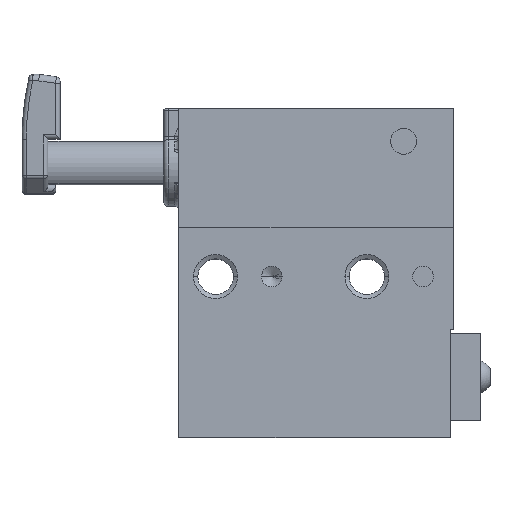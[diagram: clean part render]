
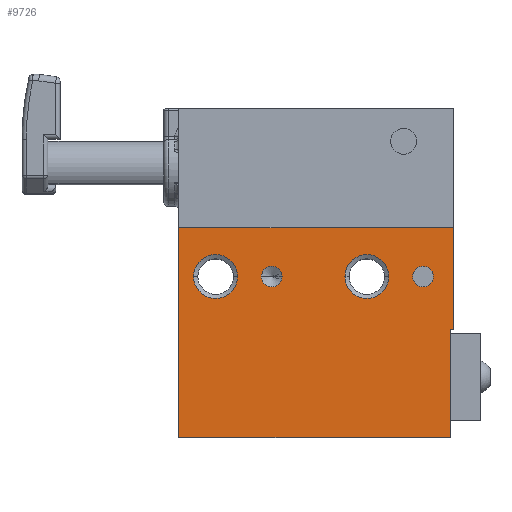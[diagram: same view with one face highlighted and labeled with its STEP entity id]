
A CAD part, top view. The second image highlights one B-rep face of the part: STEP entity #9726.
In plain terms, the highlighted planar face has unit normal (0, 0, 1).
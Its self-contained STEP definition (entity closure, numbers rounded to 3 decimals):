
#44 = ORIENTED_EDGE ( 'NONE', *, *, #11095, .F. ) ;
#253 = CARTESIAN_POINT ( 'NONE',  ( 19.1, 37.2, 20.1 ) ) ;
#331 = CARTESIAN_POINT ( 'NONE',  ( 3.425, 37.2, 20.1 ) ) ;
#344 = VERTEX_POINT ( 'NONE', #3436 ) ;
#1172 = DIRECTION ( 'NONE',  ( -1., 0., 0. ) ) ;
#1233 = VECTOR ( 'NONE', #9196, 1000. ) ;
#1365 = DIRECTION ( 'NONE',  ( 1., 0., 0. ) ) ;
#1384 = DIRECTION ( 'NONE',  ( 1., 0., 0. ) ) ;
#1598 = CARTESIAN_POINT ( 'NONE',  ( 58.9, 37.2, 20.1 ) ) ;
#1733 = CARTESIAN_POINT ( 'NONE',  ( 63.5, 48.5, 20.1 ) ) ;
#1857 = DIRECTION ( 'NONE',  ( 1., 0., 0. ) ) ;
#2010 = ORIENTED_EDGE ( 'NONE', *, *, #5491, .T. ) ;
#2034 = CARTESIAN_POINT ( 'NONE',  ( 0., 76., 20.1 ) ) ;
#2064 = VERTEX_POINT ( 'NONE', #253 ) ;
#2245 = DIRECTION ( 'NONE',  ( 0., 0., 1. ) ) ;
#2256 = EDGE_LOOP ( 'NONE', ( #12601, #13106, #2010, #4952, #5068, #9771 ) ) ;
#2276 = DIRECTION ( 'NONE',  ( 0., 0., 1. ) ) ;
#2401 = AXIS2_PLACEMENT_3D ( 'NONE', #10664, #6316, #1172 ) ;
#2630 = VECTOR ( 'NONE', #4074, 1000. ) ;
#2640 = CIRCLE ( 'NONE', #7350, 5.075 ) ;
#2742 = ORIENTED_EDGE ( 'NONE', *, *, #10946, .T. ) ;
#2843 = DIRECTION ( 'NONE',  ( 0., 0., 1. ) ) ;
#3207 = CARTESIAN_POINT ( 'NONE',  ( 0., 48.5, 20.1 ) ) ;
#3307 = CIRCLE ( 'NONE', #11158, 2.4 ) ;
#3341 = CARTESIAN_POINT ( 'NONE',  ( 0., 0., 20.1 ) ) ;
#3436 = CARTESIAN_POINT ( 'NONE',  ( 23.9, 37.2, 20.1 ) ) ;
#3476 = FACE_BOUND ( 'NONE', #5405, .T. ) ;
#3536 = VECTOR ( 'NONE', #5849, 1000. ) ;
#3658 = EDGE_CURVE ( 'NONE', #13744, #13836, #4587, .T. ) ;
#3830 = EDGE_CURVE ( 'NONE', #11074, #5529, #4134, .T. ) ;
#3936 = VECTOR ( 'NONE', #6741, 1000. ) ;
#4074 = DIRECTION ( 'NONE',  ( 0., -1., 0. ) ) ;
#4134 = CIRCLE ( 'NONE', #4356, 5.075 ) ;
#4155 = ORIENTED_EDGE ( 'NONE', *, *, #3830, .F. ) ;
#4356 = AXIS2_PLACEMENT_3D ( 'NONE', #4864, #10412, #7113 ) ;
#4376 = CARTESIAN_POINT ( 'NONE',  ( 62.8, 25., 20.1 ) ) ;
#4485 = ORIENTED_EDGE ( 'NONE', *, *, #12360, .F. ) ;
#4514 = EDGE_CURVE ( 'NONE', #5529, #11074, #8176, .T. ) ;
#4587 = CIRCLE ( 'NONE', #8615, 2.4 ) ;
#4591 = DIRECTION ( 'NONE',  ( -1., 0., 0. ) ) ;
#4814 = AXIS2_PLACEMENT_3D ( 'NONE', #9969, #2245, #13277 ) ;
#4864 = CARTESIAN_POINT ( 'NONE',  ( 8.5, 37.2, 20.1 ) ) ;
#4952 = ORIENTED_EDGE ( 'NONE', *, *, #11903, .F. ) ;
#4958 = CARTESIAN_POINT ( 'NONE',  ( 43.5, 37.2, 20.1 ) ) ;
#5060 = LINE ( 'NONE', #5913, #3536 ) ;
#5068 = ORIENTED_EDGE ( 'NONE', *, *, #5451, .T. ) ;
#5189 = CARTESIAN_POINT ( 'NONE',  ( 0., 0., 20.1 ) ) ;
#5405 = EDGE_LOOP ( 'NONE', ( #8199, #4485 ) ) ;
#5451 = EDGE_CURVE ( 'NONE', #10212, #6513, #8978, .T. ) ;
#5491 = EDGE_CURVE ( 'NONE', #5991, #6088, #8060, .T. ) ;
#5516 = FACE_OUTER_BOUND ( 'NONE', #2256, .T. ) ;
#5529 = VERTEX_POINT ( 'NONE', #10952 ) ;
#5719 = CARTESIAN_POINT ( 'NONE',  ( 56.5, 37.2, 20.1 ) ) ;
#5797 = VERTEX_POINT ( 'NONE', #7809 ) ;
#5812 = AXIS2_PLACEMENT_3D ( 'NONE', #12746, #12957, #9505 ) ;
#5849 = DIRECTION ( 'NONE',  ( 0., 1., 0. ) ) ;
#5913 = CARTESIAN_POINT ( 'NONE',  ( 63.5, 76., 20.1 ) ) ;
#5956 = EDGE_LOOP ( 'NONE', ( #2742, #12141 ) ) ;
#5991 = VERTEX_POINT ( 'NONE', #5189 ) ;
#6015 = LINE ( 'NONE', #12550, #11844 ) ;
#6088 = VERTEX_POINT ( 'NONE', #10950 ) ;
#6119 = CARTESIAN_POINT ( 'NONE',  ( 63.5, 25., 20.1 ) ) ;
#6288 = DIRECTION ( 'NONE',  ( 0., 0., 1. ) ) ;
#6316 = DIRECTION ( 'NONE',  ( 0., 0., -1. ) ) ;
#6319 = CARTESIAN_POINT ( 'NONE',  ( 62.8, 25., 20.1 ) ) ;
#6513 = VERTEX_POINT ( 'NONE', #6119 ) ;
#6741 = DIRECTION ( 'NONE',  ( 1., 0., 0. ) ) ;
#7086 = VECTOR ( 'NONE', #1384, 1000. ) ;
#7113 = DIRECTION ( 'NONE',  ( 1., 0., 0. ) ) ;
#7235 = LINE ( 'NONE', #2034, #2630 ) ;
#7350 = AXIS2_PLACEMENT_3D ( 'NONE', #4958, #10443, #9314 ) ;
#7502 = EDGE_LOOP ( 'NONE', ( #12687, #4155 ) ) ;
#7558 = FACE_BOUND ( 'NONE', #10167, .T. ) ;
#7809 = CARTESIAN_POINT ( 'NONE',  ( 48.575, 37.2, 20.1 ) ) ;
#7827 = EDGE_CURVE ( 'NONE', #344, #2064, #11980, .T. ) ;
#8052 = CARTESIAN_POINT ( 'NONE',  ( 21.5, 37.2, 20.1 ) ) ;
#8060 = LINE ( 'NONE', #13270, #7086 ) ;
#8176 = CIRCLE ( 'NONE', #4814, 5.075 ) ;
#8199 = ORIENTED_EDGE ( 'NONE', *, *, #13045, .F. ) ;
#8615 = AXIS2_PLACEMENT_3D ( 'NONE', #5719, #10923, #4591 ) ;
#8616 = VERTEX_POINT ( 'NONE', #10869 ) ;
#8685 = CIRCLE ( 'NONE', #2401, 2.4 ) ;
#8978 = LINE ( 'NONE', #13334, #3936 ) ;
#9173 = DIRECTION ( 'NONE',  ( -1., 0., 0. ) ) ;
#9196 = DIRECTION ( 'NONE',  ( 0., -1., 0. ) ) ;
#9314 = DIRECTION ( 'NONE',  ( 1., 0., 0. ) ) ;
#9373 = CARTESIAN_POINT ( 'NONE',  ( 21.5, 37.2, 20.1 ) ) ;
#9505 = DIRECTION ( 'NONE',  ( 1., 0., 0. ) ) ;
#9726 = ADVANCED_FACE ( 'NONE', ( #5516, #7558, #12057, #10999, #3476 ), #13047, .T. ) ;
#9771 = ORIENTED_EDGE ( 'NONE', *, *, #13296, .T. ) ;
#9969 = CARTESIAN_POINT ( 'NONE',  ( 8.5, 37.2, 20.1 ) ) ;
#10167 = EDGE_LOOP ( 'NONE', ( #12775, #44 ) ) ;
#10212 = VERTEX_POINT ( 'NONE', #4376 ) ;
#10412 = DIRECTION ( 'NONE',  ( 0., 0., 1. ) ) ;
#10443 = DIRECTION ( 'NONE',  ( 0., 0., 1. ) ) ;
#10664 = CARTESIAN_POINT ( 'NONE',  ( 56.5, 37.2, 20.1 ) ) ;
#10869 = CARTESIAN_POINT ( 'NONE',  ( 38.425, 37.2, 20.1 ) ) ;
#10923 = DIRECTION ( 'NONE',  ( 0., 0., -1. ) ) ;
#10946 = EDGE_CURVE ( 'NONE', #13836, #13744, #8685, .T. ) ;
#10950 = CARTESIAN_POINT ( 'NONE',  ( 62.8, 0., 20.1 ) ) ;
#10952 = CARTESIAN_POINT ( 'NONE',  ( 13.575, 37.2, 20.1 ) ) ;
#10999 = FACE_BOUND ( 'NONE', #7502, .T. ) ;
#11074 = VERTEX_POINT ( 'NONE', #331 ) ;
#11095 = EDGE_CURVE ( 'NONE', #2064, #344, #3307, .T. ) ;
#11158 = AXIS2_PLACEMENT_3D ( 'NONE', #8052, #2843, #1857 ) ;
#11176 = EDGE_CURVE ( 'NONE', #13727, #13853, #6015, .T. ) ;
#11844 = VECTOR ( 'NONE', #9173, 1000. ) ;
#11868 = CIRCLE ( 'NONE', #5812, 5.075 ) ;
#11903 = EDGE_CURVE ( 'NONE', #10212, #6088, #13699, .T. ) ;
#11980 = CIRCLE ( 'NONE', #13776, 2.4 ) ;
#12057 = FACE_BOUND ( 'NONE', #5956, .T. ) ;
#12141 = ORIENTED_EDGE ( 'NONE', *, *, #3658, .T. ) ;
#12360 = EDGE_CURVE ( 'NONE', #8616, #5797, #2640, .T. ) ;
#12471 = AXIS2_PLACEMENT_3D ( 'NONE', #3341, #2276, #1365 ) ;
#12550 = CARTESIAN_POINT ( 'NONE',  ( 69.8, 48.5, 20.1 ) ) ;
#12601 = ORIENTED_EDGE ( 'NONE', *, *, #11176, .T. ) ;
#12687 = ORIENTED_EDGE ( 'NONE', *, *, #4514, .F. ) ;
#12746 = CARTESIAN_POINT ( 'NONE',  ( 43.5, 37.2, 20.1 ) ) ;
#12751 = DIRECTION ( 'NONE',  ( 1., 0., 0. ) ) ;
#12775 = ORIENTED_EDGE ( 'NONE', *, *, #7827, .F. ) ;
#12957 = DIRECTION ( 'NONE',  ( 0., 0., 1. ) ) ;
#13045 = EDGE_CURVE ( 'NONE', #5797, #8616, #11868, .T. ) ;
#13047 = PLANE ( 'NONE',  #12471 ) ;
#13106 = ORIENTED_EDGE ( 'NONE', *, *, #13420, .T. ) ;
#13270 = CARTESIAN_POINT ( 'NONE',  ( 0., 0., 20.1 ) ) ;
#13277 = DIRECTION ( 'NONE',  ( 1., 0., 0. ) ) ;
#13296 = EDGE_CURVE ( 'NONE', #6513, #13727, #5060, .T. ) ;
#13334 = CARTESIAN_POINT ( 'NONE',  ( 62.8, 25., 20.1 ) ) ;
#13420 = EDGE_CURVE ( 'NONE', #13853, #5991, #7235, .T. ) ;
#13695 = CARTESIAN_POINT ( 'NONE',  ( 54.1, 37.2, 20.1 ) ) ;
#13699 = LINE ( 'NONE', #6319, #1233 ) ;
#13727 = VERTEX_POINT ( 'NONE', #1733 ) ;
#13744 = VERTEX_POINT ( 'NONE', #1598 ) ;
#13776 = AXIS2_PLACEMENT_3D ( 'NONE', #9373, #6288, #12751 ) ;
#13836 = VERTEX_POINT ( 'NONE', #13695 ) ;
#13853 = VERTEX_POINT ( 'NONE', #3207 ) ;
